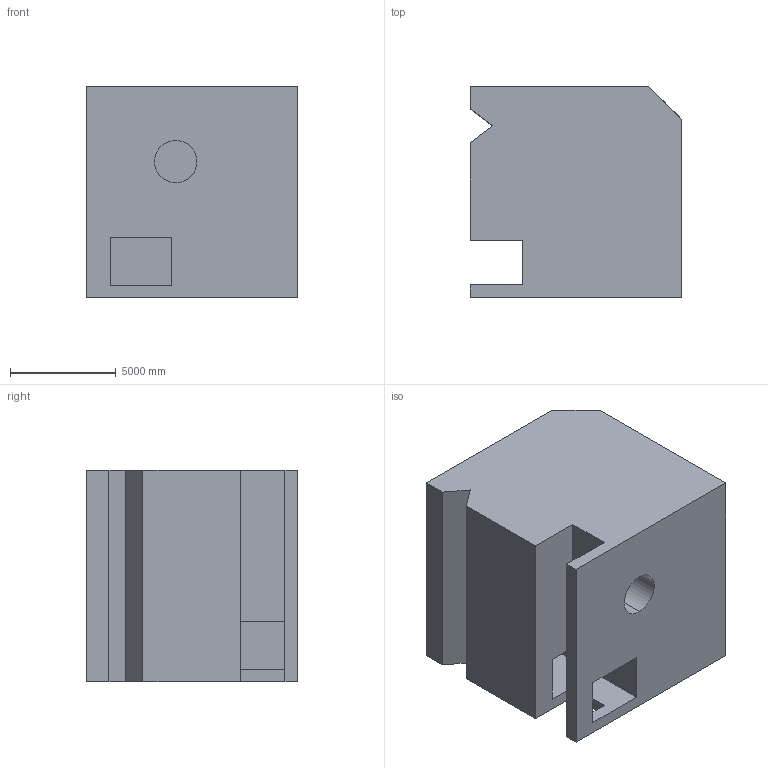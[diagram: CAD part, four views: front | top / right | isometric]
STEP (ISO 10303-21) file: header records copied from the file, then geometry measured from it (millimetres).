
FILE_DESCRIPTION (( 'STEP AP203' ), '1' );
FILE_NAME ('1561.STEP', '2022-08-18T15:48:32', ( 'user' ), ( '' ), 'SwSTEP 2.0', 'SolidWorks 2021', '' );
FILE_SCHEMA (( 'CONFIG_CONTROL_DESIGN' ));
Length unit declared in the file: centimetre
Products named in the file (1): 1561
Bounding box: 10000 x 10000 x 10000 mm (x, y, z)
Volume: 870619961126.1 mm3; surface area: 723024319 mm2
Topology: 1 solids, 1 shells, 28 faces, 78 edges, 52 vertices
Faces by surface type: plane 26, cylinder 2
Entity records: 967 total; most frequent: CARTESIAN_POINT 159, ORIENTED_EDGE 156, DIRECTION 140, EDGE_CURVE 78, VECTOR 74, LINE 74, VERTEX_POINT 52, AXIS2_PLACEMENT_3D 33
